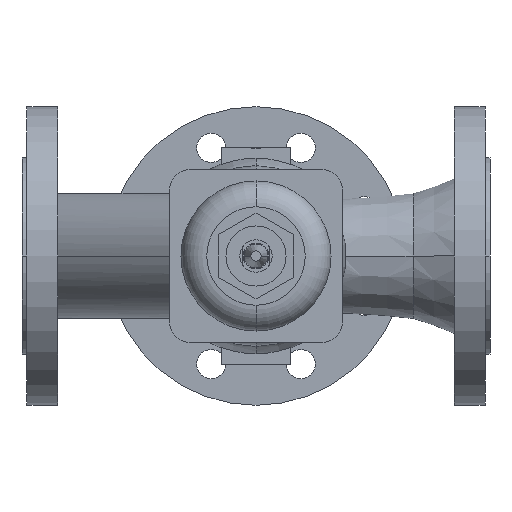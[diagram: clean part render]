
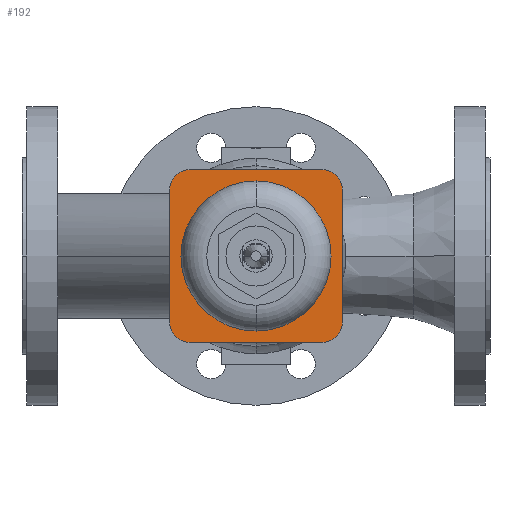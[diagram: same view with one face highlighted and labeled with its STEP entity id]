
A CAD part, front view. The second image highlights one B-rep face of the part: STEP entity #192.
In plain terms, the highlighted planar face has unit normal (0, -1, 0).
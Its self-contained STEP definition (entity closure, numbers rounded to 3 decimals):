
#192 = ADVANCED_FACE( '', ( #521, #522 ), #523, .T. );
#521 = FACE_OUTER_BOUND( '', #941, .T. );
#522 = FACE_BOUND( '', #942, .T. );
#523 = PLANE( '', #943 );
#941 = EDGE_LOOP( '', ( #2005, #2006, #2007, #2008, #2009, #2010, #2011, #2012 ) );
#942 = EDGE_LOOP( '', ( #2013, #2014 ) );
#943 = AXIS2_PLACEMENT_3D( '', #2015, #2016, #2017 );
#2005 = ORIENTED_EDGE( '', *, *, #2869, .T. );
#2006 = ORIENTED_EDGE( '', *, *, #2861, .T. );
#2007 = ORIENTED_EDGE( '', *, *, #2852, .T. );
#2008 = ORIENTED_EDGE( '', *, *, #2843, .T. );
#2009 = ORIENTED_EDGE( '', *, *, #2837, .T. );
#2010 = ORIENTED_EDGE( '', *, *, #2878, .T. );
#2011 = ORIENTED_EDGE( '', *, *, #2875, .T. );
#2012 = ORIENTED_EDGE( '', *, *, #2872, .T. );
#2013 = ORIENTED_EDGE( '', *, *, #2670, .F. );
#2014 = ORIENTED_EDGE( '', *, *, #2881, .F. );
#2015 = CARTESIAN_POINT( '', ( 86., -154.65, 0. ) );
#2016 = DIRECTION( '', ( 0., -1., 0. ) );
#2017 = DIRECTION( '', ( -1., 0., 0. ) );
#2670 = EDGE_CURVE( '', #3251, #3254, #3255, .T. );
#2837 = EDGE_CURVE( '', #3528, #3526, #3529, .T. );
#2843 = EDGE_CURVE( '', #3538, #3528, #3539, .T. );
#2852 = EDGE_CURVE( '', #3553, #3538, #3554, .T. );
#2861 = EDGE_CURVE( '', #3568, #3553, #3569, .T. );
#2869 = EDGE_CURVE( '', #3580, #3568, #3581, .T. );
#2872 = EDGE_CURVE( '', #3585, #3580, #3586, .T. );
#2875 = EDGE_CURVE( '', #3590, #3585, #3591, .T. );
#2878 = EDGE_CURVE( '', #3526, #3590, #3594, .T. );
#2881 = EDGE_CURVE( '', #3254, #3251, #3597, .T. );
#3251 = VERTEX_POINT( '', #4283 );
#3254 = VERTEX_POINT( '', #4287 );
#3255 = CIRCLE( '', #4288, 46.5 );
#3526 = VERTEX_POINT( '', #4631 );
#3528 = VERTEX_POINT( '', #4634 );
#3529 = LINE( '', #4635, #4636 );
#3538 = VERTEX_POINT( '', #4647 );
#3539 = CIRCLE( '', #4648, 13. );
#3553 = VERTEX_POINT( '', #4668 );
#3554 = LINE( '', #4669, #4670 );
#3568 = VERTEX_POINT( '', #4689 );
#3569 = CIRCLE( '', #4690, 13. );
#3580 = VERTEX_POINT( '', #4706 );
#3581 = LINE( '', #4707, #4708 );
#3585 = VERTEX_POINT( '', #4713 );
#3586 = CIRCLE( '', #4714, 13. );
#3590 = VERTEX_POINT( '', #4720 );
#3591 = LINE( '', #4721, #4722 );
#3594 = CIRCLE( '', #4726, 13. );
#3597 = CIRCLE( '', #4729, 46.5 );
#4283 = CARTESIAN_POINT( '', ( 98.5, -154.65, 0. ) );
#4287 = CARTESIAN_POINT( '', ( 191.5, -154.65, 0. ) );
#4288 = AXIS2_PLACEMENT_3D( '', #5308, #5309, #5310 );
#4631 = CARTESIAN_POINT( '', ( 198.659, -154.65, 40.659 ) );
#4634 = CARTESIAN_POINT( '', ( 198.659, -154.65, -40.659 ) );
#4635 = CARTESIAN_POINT( '', ( 198.659, -154.65, 20.329 ) );
#4636 = VECTOR( '', #5663, 1. );
#4647 = CARTESIAN_POINT( '', ( 185.659, -154.65, -53.659 ) );
#4648 = AXIS2_PLACEMENT_3D( '', #5675, #5676, #5677 );
#4668 = CARTESIAN_POINT( '', ( 104.341, -154.65, -53.659 ) );
#4669 = CARTESIAN_POINT( '', ( 115.5, -154.65, -53.659 ) );
#4670 = VECTOR( '', #5690, 1. );
#4689 = CARTESIAN_POINT( '', ( 91.341, -154.65, -40.659 ) );
#4690 = AXIS2_PLACEMENT_3D( '', #5705, #5706, #5707 );
#4706 = CARTESIAN_POINT( '', ( 91.341, -154.65, 40.659 ) );
#4707 = CARTESIAN_POINT( '', ( 91.341, -154.65, -20.329 ) );
#4708 = VECTOR( '', #5719, 1. );
#4713 = CARTESIAN_POINT( '', ( 104.341, -154.65, 53.659 ) );
#4714 = AXIS2_PLACEMENT_3D( '', #5724, #5725, #5726 );
#4720 = CARTESIAN_POINT( '', ( 185.659, -154.65, 53.659 ) );
#4721 = CARTESIAN_POINT( '', ( 95.171, -154.65, 53.659 ) );
#4722 = VECTOR( '', #5729, 1. );
#4726 = AXIS2_PLACEMENT_3D( '', #5734, #5735, #5736 );
#4729 = AXIS2_PLACEMENT_3D( '', #5743, #5744, #5745 );
#5308 = CARTESIAN_POINT( '', ( 145., -154.65, 0. ) );
#5309 = DIRECTION( '', ( 0., -1., 0. ) );
#5310 = DIRECTION( '', ( -1., 0., 0. ) );
#5663 = DIRECTION( '', ( 0., 0., 1. ) );
#5675 = CARTESIAN_POINT( '', ( 185.659, -154.65, -40.659 ) );
#5676 = DIRECTION( '', ( 0., -1., 0. ) );
#5677 = DIRECTION( '', ( 1., 0., 0. ) );
#5690 = DIRECTION( '', ( 1., 0., 0. ) );
#5705 = CARTESIAN_POINT( '', ( 104.341, -154.65, -40.659 ) );
#5706 = DIRECTION( '', ( 0., -1., 0. ) );
#5707 = DIRECTION( '', ( 0., 0., -1. ) );
#5719 = DIRECTION( '', ( 0., 0., -1. ) );
#5724 = CARTESIAN_POINT( '', ( 104.341, -154.65, 40.659 ) );
#5725 = DIRECTION( '', ( 0., -1., 0. ) );
#5726 = DIRECTION( '', ( -1., 0., 0. ) );
#5729 = DIRECTION( '', ( -1., 0., 0. ) );
#5734 = CARTESIAN_POINT( '', ( 185.659, -154.65, 40.659 ) );
#5735 = DIRECTION( '', ( 0., -1., 0. ) );
#5736 = DIRECTION( '', ( 0., 0., 1. ) );
#5743 = CARTESIAN_POINT( '', ( 145., -154.65, 0. ) );
#5744 = DIRECTION( '', ( 0., -1., 0. ) );
#5745 = DIRECTION( '', ( -1., 0., 0. ) );
